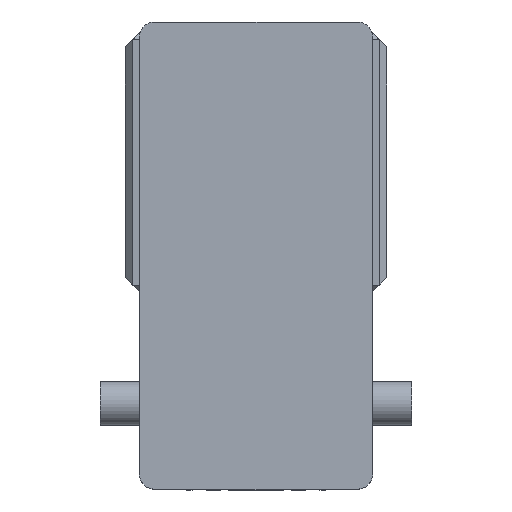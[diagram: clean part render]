
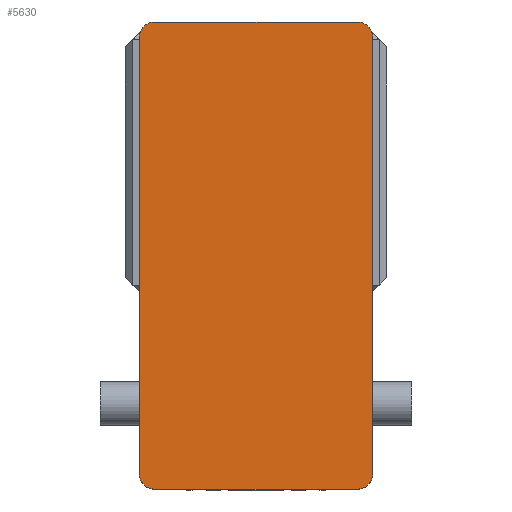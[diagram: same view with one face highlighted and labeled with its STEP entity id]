
A CAD part, left-side view. The second image highlights one B-rep face of the part: STEP entity #5630.
In plain terms, the highlighted planar face has unit normal (-1, 0, 0) as drawn and (0, 0, 1) by its records, which use the part's own axes.
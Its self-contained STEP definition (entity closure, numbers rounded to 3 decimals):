
#41 = VERTEX_POINT ( 'NONE', #9292 ) ;
#974 = EDGE_CURVE ( 'NONE', #41, #12923, #2426, .T. ) ;
#1264 = EDGE_CURVE ( 'NONE', #10354, #21641, #13321, .T. ) ;
#1415 = EDGE_CURVE ( 'NONE', #3133, #9703, #15691, .T. ) ;
#1581 = EDGE_CURVE ( 'NONE', #21641, #14438, #22607, .T. ) ;
#1919 = EDGE_CURVE ( 'NONE', #9703, #4885, #22393, .T. ) ;
#2022 = EDGE_CURVE ( 'NONE', #12923, #10354, #22133, .T. ) ;
#2165 = EDGE_CURVE ( 'NONE', #14438, #3133, #21930, .T. ) ;
#2426 = LINE ( 'NONE', #19116, #5829 ) ;
#2771 = CARTESIAN_POINT ( 'NONE',  ( -65., -140., 105. ) ) ;
#3020 = DIRECTION ( 'NONE',  ( 0., 0., 1. ) ) ;
#3133 = VERTEX_POINT ( 'NONE', #14637 ) ;
#3462 = EDGE_CURVE ( 'NONE', #4885, #41, #19970, .T. ) ;
#3465 = CARTESIAN_POINT ( 'NONE',  ( -75., -140., 105. ) ) ;
#4666 = DIRECTION ( 'NONE',  ( -1., 0., 0. ) ) ;
#4885 = VERTEX_POINT ( 'NONE', #3465 ) ;
#5000 = CARTESIAN_POINT ( 'NONE',  ( -75., 150., 105. ) ) ;
#5458 = DIRECTION ( 'NONE',  ( 1., 0., 0. ) ) ;
#5486 = DIRECTION ( 'NONE',  ( 0., 0., 1. ) ) ;
#5513 = CARTESIAN_POINT ( 'NONE',  ( 65., -140., 105. ) ) ;
#5612 = CARTESIAN_POINT ( 'NONE',  ( 65., -150., 105. ) ) ;
#5630 = ADVANCED_FACE ( 'NONE', ( #15319 ), #18388, .T. ) ;
#5829 = VECTOR ( 'NONE', #11925, 1000. ) ;
#6523 = DIRECTION ( 'NONE',  ( 0., -1., 0. ) ) ;
#6599 = CARTESIAN_POINT ( 'NONE',  ( -75., 150., 105. ) ) ;
#7911 = EDGE_LOOP ( 'NONE', ( #13845, #13773, #15055, #14292, #14125, #15331, #15993, #15751 ) ) ;
#8963 = CARTESIAN_POINT ( 'NONE',  ( 75., -140., 105. ) ) ;
#9292 = CARTESIAN_POINT ( 'NONE',  ( -65., -150., 105. ) ) ;
#9703 = VERTEX_POINT ( 'NONE', #15727 ) ;
#9864 = AXIS2_PLACEMENT_3D ( 'NONE', #2771, #3020, #22533 ) ;
#10234 = DIRECTION ( 'NONE',  ( 1., 0., 0. ) ) ;
#10265 = CARTESIAN_POINT ( 'NONE',  ( 75., 140., 105. ) ) ;
#10269 = DIRECTION ( 'NONE',  ( 0., 0., 1. ) ) ;
#10293 = CARTESIAN_POINT ( 'NONE',  ( 65., 140., 105. ) ) ;
#10354 = VERTEX_POINT ( 'NONE', #8963 ) ;
#11196 = AXIS2_PLACEMENT_3D ( 'NONE', #12289, #12924, #11820 ) ;
#11820 = DIRECTION ( 'NONE',  ( 1., 0., 0. ) ) ;
#11925 = DIRECTION ( 'NONE',  ( 1., 0., 0. ) ) ;
#12289 = CARTESIAN_POINT ( 'NONE',  ( -65., 140., 105. ) ) ;
#12923 = VERTEX_POINT ( 'NONE', #5612 ) ;
#12924 = DIRECTION ( 'NONE',  ( 0., 0., 1. ) ) ;
#13321 = LINE ( 'NONE', #14328, #20823 ) ;
#13773 = ORIENTED_EDGE ( 'NONE', *, *, #2022, .T. ) ;
#13845 = ORIENTED_EDGE ( 'NONE', *, *, #974, .T. ) ;
#13876 = AXIS2_PLACEMENT_3D ( 'NONE', #10293, #10269, #10234 ) ;
#14125 = ORIENTED_EDGE ( 'NONE', *, *, #2165, .T. ) ;
#14193 = DIRECTION ( 'NONE',  ( 0., 1., 0. ) ) ;
#14292 = ORIENTED_EDGE ( 'NONE', *, *, #1581, .T. ) ;
#14328 = CARTESIAN_POINT ( 'NONE',  ( 75., 150., 105. ) ) ;
#14438 = VERTEX_POINT ( 'NONE', #21995 ) ;
#14637 = CARTESIAN_POINT ( 'NONE',  ( -65., 150., 105. ) ) ;
#15055 = ORIENTED_EDGE ( 'NONE', *, *, #1264, .T. ) ;
#15319 = FACE_OUTER_BOUND ( 'NONE', #7911, .T. ) ;
#15331 = ORIENTED_EDGE ( 'NONE', *, *, #1415, .T. ) ;
#15691 = CIRCLE ( 'NONE', #11196, 10. ) ;
#15727 = CARTESIAN_POINT ( 'NONE',  ( -75., 140., 105. ) ) ;
#15751 = ORIENTED_EDGE ( 'NONE', *, *, #3462, .T. ) ;
#15993 = ORIENTED_EDGE ( 'NONE', *, *, #1919, .T. ) ;
#18309 = DIRECTION ( 'NONE',  ( 1., 0., 0. ) ) ;
#18364 = DIRECTION ( 'NONE',  ( 0., 0., 1. ) ) ;
#18388 = PLANE ( 'NONE',  #22384 ) ;
#18660 = CARTESIAN_POINT ( 'NONE',  ( 0., 0., 105. ) ) ;
#19116 = CARTESIAN_POINT ( 'NONE',  ( -75., -150., 105. ) ) ;
#19970 = CIRCLE ( 'NONE', #9864, 10. ) ;
#20352 = AXIS2_PLACEMENT_3D ( 'NONE', #5513, #5486, #5458 ) ;
#20823 = VECTOR ( 'NONE', #14193, 1000. ) ;
#21641 = VERTEX_POINT ( 'NONE', #10265 ) ;
#21930 = LINE ( 'NONE', #5000, #21994 ) ;
#21994 = VECTOR ( 'NONE', #4666, 1000. ) ;
#21995 = CARTESIAN_POINT ( 'NONE',  ( 65., 150., 105. ) ) ;
#22133 = CIRCLE ( 'NONE', #20352, 10. ) ;
#22370 = VECTOR ( 'NONE', #6523, 1000. ) ;
#22384 = AXIS2_PLACEMENT_3D ( 'NONE', #18660, #18364, #18309 ) ;
#22393 = LINE ( 'NONE', #6599, #22370 ) ;
#22533 = DIRECTION ( 'NONE',  ( 1., 0., 0. ) ) ;
#22607 = CIRCLE ( 'NONE', #13876, 10. ) ;
